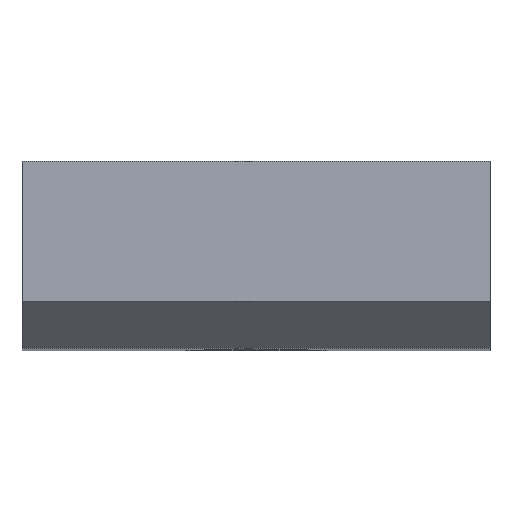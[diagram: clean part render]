
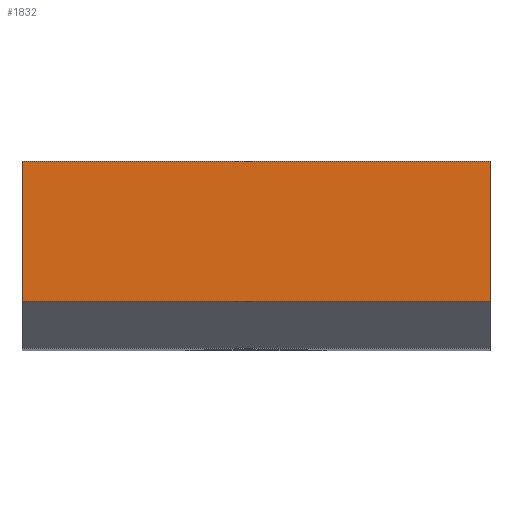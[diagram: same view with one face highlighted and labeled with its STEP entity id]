
A CAD part, top view. The second image highlights one B-rep face of the part: STEP entity #1832.
In plain terms, the highlighted planar face has unit normal (0, 0, 1).
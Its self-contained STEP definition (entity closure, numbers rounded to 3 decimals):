
#309 = EDGE_CURVE ( 'NONE', #2625, #2006, #3289, .T. ) ;
#312 = VECTOR ( 'NONE', #3644, 1000. ) ;
#399 = CARTESIAN_POINT ( 'NONE',  ( 0., 12., 100. ) ) ;
#405 = VERTEX_POINT ( 'NONE', #3750 ) ;
#773 = ORIENTED_EDGE ( 'NONE', *, *, #4204, .T. ) ;
#807 = ORIENTED_EDGE ( 'NONE', *, *, #1228, .T. ) ;
#819 = PLANE ( 'NONE',  #2392 ) ;
#828 = VECTOR ( 'NONE', #2468, 1000. ) ;
#861 = ORIENTED_EDGE ( 'NONE', *, *, #4002, .F. ) ;
#864 = ORIENTED_EDGE ( 'NONE', *, *, #309, .F. ) ;
#869 = CARTESIAN_POINT ( 'NONE',  ( 30., 7.5, 100. ) ) ;
#883 = DIRECTION ( 'NONE',  ( 0., -1., 0. ) ) ;
#932 = LINE ( 'NONE', #2228, #1034 ) ;
#1034 = VECTOR ( 'NONE', #2150, 1000. ) ;
#1195 = LINE ( 'NONE', #3765, #312 ) ;
#1228 = EDGE_CURVE ( 'NONE', #2202, #405, #932, .T. ) ;
#1751 = LINE ( 'NONE', #2553, #828 ) ;
#1832 = ADVANCED_FACE ( 'NONE', ( #3344 ), #819, .T. ) ;
#2006 = VERTEX_POINT ( 'NONE', #3897 ) ;
#2150 = DIRECTION ( 'NONE',  ( 0., -1., 0. ) ) ;
#2202 = VERTEX_POINT ( 'NONE', #399 ) ;
#2228 = CARTESIAN_POINT ( 'NONE',  ( 0., 7.5, 100. ) ) ;
#2392 = AXIS2_PLACEMENT_3D ( 'NONE', #4234, #4218, #4211 ) ;
#2468 = DIRECTION ( 'NONE',  ( 1., 0., 0. ) ) ;
#2538 = EDGE_LOOP ( 'NONE', ( #864, #861, #807, #773 ) ) ;
#2553 = CARTESIAN_POINT ( 'NONE',  ( 15., 12., 100. ) ) ;
#2625 = VERTEX_POINT ( 'NONE', #2872 ) ;
#2872 = CARTESIAN_POINT ( 'NONE',  ( 30., 12., 100. ) ) ;
#3237 = VECTOR ( 'NONE', #883, 1000. ) ;
#3289 = LINE ( 'NONE', #869, #3237 ) ;
#3344 = FACE_OUTER_BOUND ( 'NONE', #2538, .T. ) ;
#3644 = DIRECTION ( 'NONE',  ( 1., 0., 0. ) ) ;
#3750 = CARTESIAN_POINT ( 'NONE',  ( 0., 3., 100. ) ) ;
#3765 = CARTESIAN_POINT ( 'NONE',  ( 15., 3., 100. ) ) ;
#3897 = CARTESIAN_POINT ( 'NONE',  ( 30., 3., 100. ) ) ;
#4002 = EDGE_CURVE ( 'NONE', #2202, #2625, #1751, .T. ) ;
#4204 = EDGE_CURVE ( 'NONE', #405, #2006, #1195, .T. ) ;
#4211 = DIRECTION ( 'NONE',  ( 1., 0., 0. ) ) ;
#4218 = DIRECTION ( 'NONE',  ( 0., 0., 1. ) ) ;
#4234 = CARTESIAN_POINT ( 'NONE',  ( 0., 12., 100. ) ) ;
